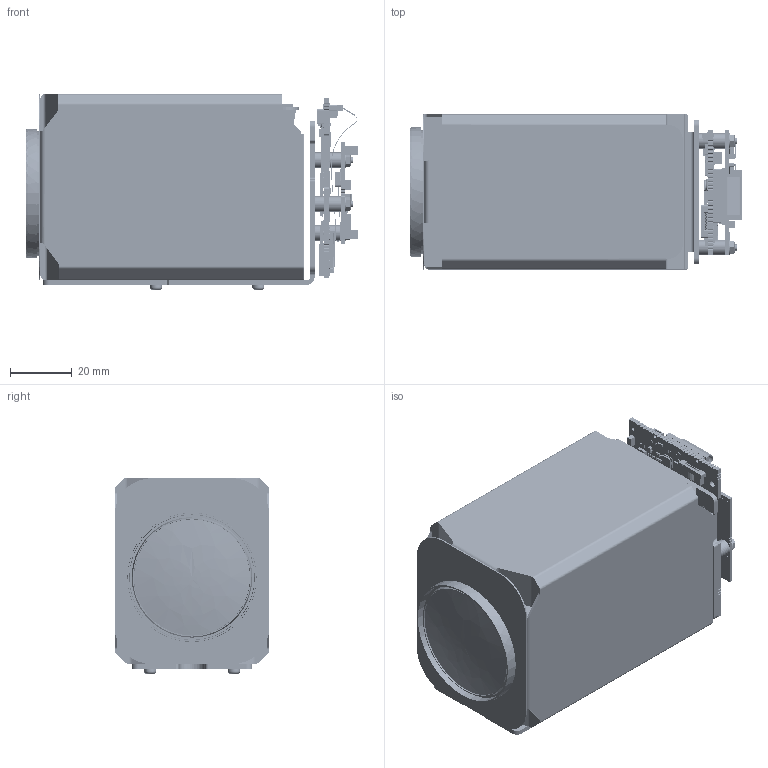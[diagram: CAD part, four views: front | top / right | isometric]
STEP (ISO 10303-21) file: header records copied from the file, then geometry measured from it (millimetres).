
FILE_DESCRIPTION( ( 'Unknown' ), '1' );
FILE_NAME( 'Q:/2003/Product3DCADModels/mm-ap29c01-0136-0101.stp', 'Unknown', ( 'Unknown' ), ( 'Unknown' ), 'PSStep 17.0.49', 'Unknown', ' ' );
FILE_SCHEMA( ( 'AUTOMOTIVE_DESIGN { 1 0 10303 214 1 1 1 1 }' ) );
Length unit declared in the file: millimetre
Products named in the file (560): Lead-4; Open_CASCADE_STEP_translator_6.8_1.2.1; Lead-1; Lead-3; Lead; Lead-7; Lead-2; Lead-6; Lead-5; Body; Open_CASCADE_STEP_translator_6.8_17.2.1; Pin_Shape; Open_CASCADE_STEP_translator_6.8_17.4.1; 5993357248; body; DEFAULT; DEFAULT-1; DEFAULT-2; Mid_Body; Open_CASCADE_STEP_translator_6.8_3.2.1; FRAME_RUG0010A; Open CASCADE STEP translator 6.8 16.15.1.1.1; Open CASCADE STEP translator 6.8 16.15.1.1.2; Open CASCADE STEP translator 6.8 16.15.1.1.3; Open CASCADE STEP translator 6.8 16.15.1.1.4; Open CASCADE STEP translator 6.8 16.15.1.1.5; Open CASCADE STEP translator 6.8 16.15.1.1.6; Open CASCADE STEP translator 6.8 16.15.1.1.7; Open CASCADE STEP translator 6.8 16.15.1.1.8; Open CASCADE STEP translator 6.8 16.15.1.1.9; Open CASCADE STEP translator 6.8 16.15.1.1.10; Terminal; Open_CASCADE_STEP_translator_6.8_3.1.1; Open_CASCADE_STEP_translator_6.8_3.1.2; 6292125808; Thermal_Shape; Open_CASCADE_STEP_translator_6.8_17.1; 6852941584; Extruded; User_Library-LED_1006_G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
Assembly tree (1411 placements, depth 7):
  Assem1
    G-806-048H  x4
    G-875-322T  x3
    G-977-016Z  x3
    G-161-906B  x3
    flexi-01
    EV9520L
    bracket-assy
      bracket-0378-02
      G-373-916V  x3
      G-513-075C  x3
    mm-ap29c04-0118-0201
      Board
        Open CASCADE STEP translator 6.8 8.1.1
          Open CASCADE STEP translator 6.8 8.1.1.1
      Z14
        6755408912
          Extruded
      Z10
        L3-838
      L4
        User_Library-CM0805
      R3
        6478572848
          Extruded
      C1
        6682828912  x2
          Extruded
        6682828672
          Extruded
      C2
        6682828912  x2
          Extruded
        6682828672
          Extruded
      C3
        6682828912  x2
          Extruded
        6682828672
          Extruded
      C4
        6682828912  x2
          Extruded
        6682828672
          Extruded
      J2
        BM09B-SRSS-TB
      J3
        BM04B-SRSS-TB
      L1
        SM453229-231N7Y
        SM453229-231N7Y
        SM453229-231N7Y
        SM453229-231N7Y
        SM453229-231N7Y
        SM453229-231N7Y
        SM453229-231N7Y
        SM453229-231N7Y
        SM453229-231N7Y
        SM453229-231N7Y
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Bounding box: 107.17 x 50 x 63.14 mm (x, y, z)
Volume: 267728.2 mm3; surface area: 59260.1 mm2
Topology: 1028 solids, 1029 shells, 16040 faces, 41042 edges, 26941 vertices
Faces by surface type: plane 13647, cylinder 2038, sphere 100, cone 86, torus 60, revolution 56, bspline 53
Full cylindrical faces by diameter (mm): 0.041 x1, 0.15 x1, 0.2 x2, 0.25 x1, 0.5 x1, 0.519 x1, 1 x1, 1.1 x1, 1.12 x2, 1.567 x3, 1.729 x8, 2 x9, 2.2 x47, 3.88 x4, 5 x9, 6 x1, 6.2 x2, 40.2 x1, 41.7 x1, 44 x1
Entity records: 304769 total; most frequent: CARTESIAN_POINT 42358, DIRECTION 40247, ORIENTED_EDGE 39059, EDGE_CURVE 19530, LINE 16113, VECTOR 16113, VERTEX_POINT 12936, AXIS2_PLACEMENT_3D 12060
